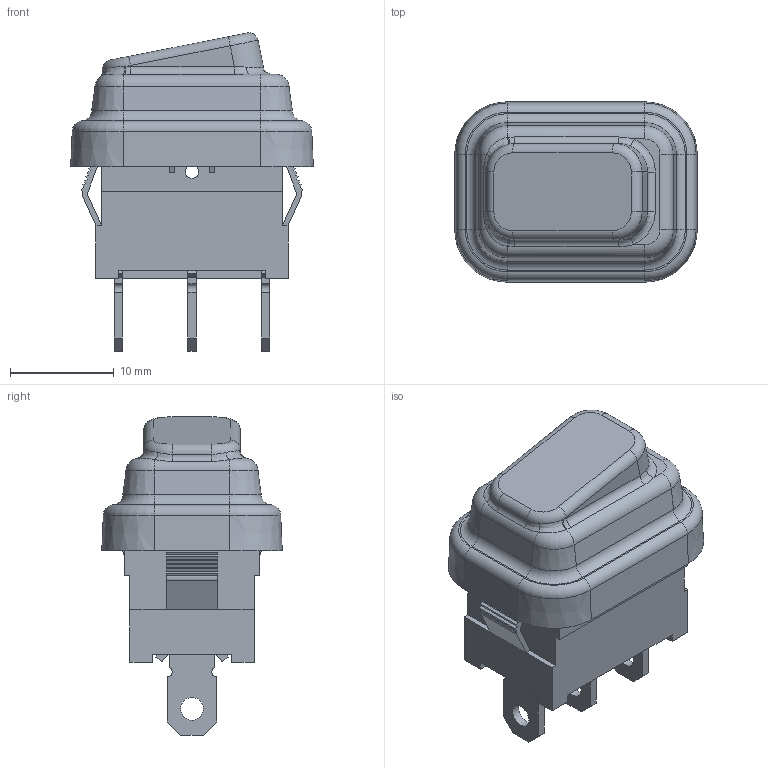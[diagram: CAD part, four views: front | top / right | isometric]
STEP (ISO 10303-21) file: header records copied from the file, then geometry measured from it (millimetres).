
FILE_DESCRIPTION(/* description */ (''),/* implementation_level */ '2;1');
FILE_NAME(/* name */ 'C:\Users\Hani\Desktop\work\RF3-1D-DC-2-B\RF3-1D-DC-2-B Rocker Switch.stp',/* time_stamp */ '2020-06-15T21:29:53-07:00',/* author */ ('Hani'),/* organization */ (''),/* preprocessor_version */ 'ST-DEVELOPER v17',/* originating_system */ 'Autodesk Inventor 2019',/* authorisation */ '');
FILE_SCHEMA (('AUTOMOTIVE_DESIGN { 1 0 10303 214 3 1 1 }'));
Length unit declared in the file: inch
Products named in the file (5): SRB1-2G-DC-1-NN Rocker Switch; ROCKER SWITCH; botton; COVER; .187 terminal
Assembly tree (6 placements, depth 2):
  SRB1-2G-DC-1-NN Rocker Switch
    ROCKER SWITCH
    botton
    COVER
    .187 terminal  x3
Bounding box: 23.39 x 17.4 x 30.7 mm (x, y, z)
Volume: 4641.3 mm3; surface area: 4384.8 mm2
Topology: 6 solids, 6 shells, 312 faces, 802 edges, 507 vertices
Faces by surface type: plane 189, cylinder 66, torus 24, bspline 18, cone 12, sphere 3
Full cylindrical faces by diameter (mm): 1.27 x1, 2.21 x3
Entity records: 8740 total; most frequent: CARTESIAN_POINT 1869, ORIENTED_EDGE 1400, DIRECTION 1388, EDGE_CURVE 700, LINE 492, VECTOR 492, AXIS2_PLACEMENT_3D 448, VERTEX_POINT 439
